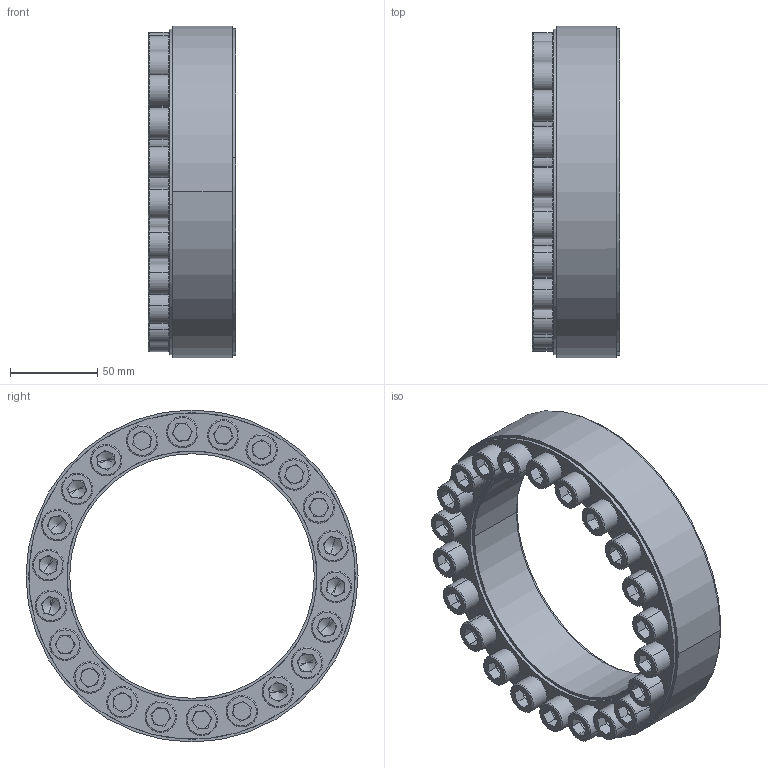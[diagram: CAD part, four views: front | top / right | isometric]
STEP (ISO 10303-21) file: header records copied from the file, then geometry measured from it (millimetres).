
FILE_DESCRIPTION (( 'STEP AP203' ), '1' );
FILE_NAME ('SAPL-D1-140-190.STEP', '2018-12-15T00:00:33', ( '' ), ( '' ), 'SwSTEP 2.0', 'SolidWorks 2015', '' );
FILE_SCHEMA (( 'CONFIG_CONTROL_DESIGN' ));
Length unit declared in the file: millimetre
Products named in the file (1): SAPL-D1-140-190
Bounding box: 50.02 x 189.99 x 189.99 mm (x, y, z)
Surface area: 143583.9 mm2 (no closed solid volume)
Topology: 0 solids, 48 shells, 552 faces, 1404 edges, 856 vertices
Faces by surface type: plane 278, cylinder 144, torus 88, cone 42
Entity records: 16438 total; most frequent: DIRECTION 3160, CARTESIAN_POINT 2793, ORIENTED_EDGE 2444, EDGE_CURVE 1384, AXIS2_PLACEMENT_3D 1223, VERTEX_POINT 856, LINE 714, VECTOR 714
